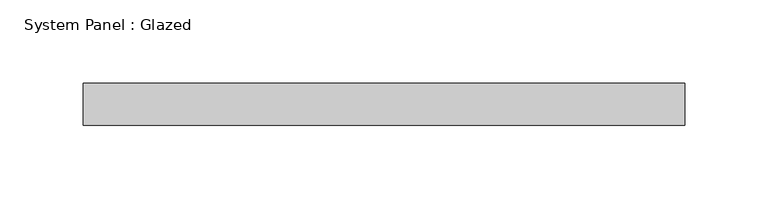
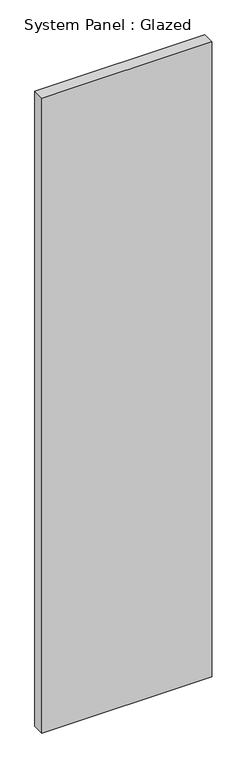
"""IFC4 building model written with IfcOpenShell, lengths in millimetres: plate geometry, System Panel : Glazed."""

from ifc_helpers import new_model, si_unit, origin, origin_with_axes, place, context, project, spatial, polyline, outline, extrude, source, transform, mapped, element, save


def system_panel_glazed_e12d2849(model_context):
    return source(origin(), model_context, "Body", "SweptSolid", [
        extrude(outline(polyline([(180.975, 19.05), (-180.975, 19.05), (-180.975, 44.45), (180.975, 44.45), (180.975, 19.05)])), origin_with_axes(), (0.0, 0.0, 1.0), 1428.75),
    ])


if __name__ == "__main__":
    model = new_model("IFC4")
    model_context = context("Model", 3, world=origin())
    ifc_project = project(units=[si_unit("LENGTHUNIT", "METRE", prefix="MILLI")], contexts=[model_context])
    site = spatial("IfcSite", under=ifc_project)
    building = spatial("IfcBuilding", under=site)
    placement = place(None, origin())
    system_panel_glazed_shape = system_panel_glazed_e12d2849(model_context)
    element("IfcPlate", 1, ObjectType="System Panel : Glazed", at=placement, inside=building, context=model_context, shape_type="MappedRepresentation", body=[
        mapped(system_panel_glazed_shape, transform((0.0, 0.0, 0.0), x_axis=(1.0, 0.0, 0.0), y_axis=(0.0, 1.0, 0.0), z_axis=(0.0, 0.0, 1.0))),
    ])
    save(model, "model.ifc")
